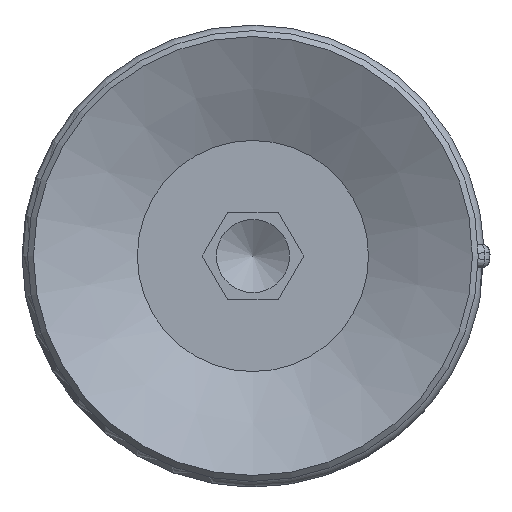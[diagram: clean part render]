
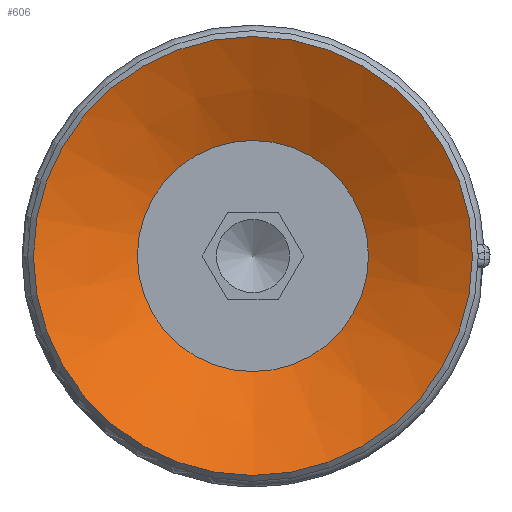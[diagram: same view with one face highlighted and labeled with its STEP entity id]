
A CAD part, front view. The second image highlights one B-rep face of the part: STEP entity #606.
In plain terms, the highlighted conical face has half-angle 64 degrees and reference radius 3.95 mm.
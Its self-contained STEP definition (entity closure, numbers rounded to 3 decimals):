
#606=ADVANCED_FACE('',(#873,#874),#875,.F.);
#873=FACE_BOUND('',#1252,.T.);
#874=FACE_OUTER_BOUND('',#1253,.T.);
#875=CONICAL_SURFACE('',#1254,3.95,1.117);
#1252=EDGE_LOOP('',(#2087));
#1253=EDGE_LOOP('',(#2088));
#1254=AXIS2_PLACEMENT_3D('',#2089,#2090,#2091);
#2087=ORIENTED_EDGE('',*,*,#2565,.F.);
#2088=ORIENTED_EDGE('',*,*,#2566,.T.);
#2089=CARTESIAN_POINT('',(0.0,-29.404,-47.168));
#2090=DIRECTION('',(-0.0,0.,1.0));
#2091=DIRECTION('',(0.0,-1.0,0.));
#2565=EDGE_CURVE('',#2953,#2953,#2954,.T.);
#2566=EDGE_CURVE('',#2955,#2955,#2956,.T.);
#2953=VERTEX_POINT('',#3977);
#2954=CIRCLE('',#3978,3.95);
#2955=VERTEX_POINT('',#3979);
#2956=CIRCLE('',#3980,7.5);
#3977=CARTESIAN_POINT('',(0.0,-33.354,-47.168));
#3978=AXIS2_PLACEMENT_3D('',#4400,#4401,#4402);
#3979=CARTESIAN_POINT('',(0.0,-36.904,-45.437));
#3980=AXIS2_PLACEMENT_3D('',#4403,#4404,#4405);
#4400=CARTESIAN_POINT('',(0.0,-29.404,-47.168));
#4401=DIRECTION('',(0.0,0.,1.0));
#4402=DIRECTION('',(0.0,-1.0,0.));
#4403=CARTESIAN_POINT('',(0.0,-29.404,-45.437));
#4404=DIRECTION('',(0.0,0.,1.0));
#4405=DIRECTION('',(0.0,-1.0,0.));
